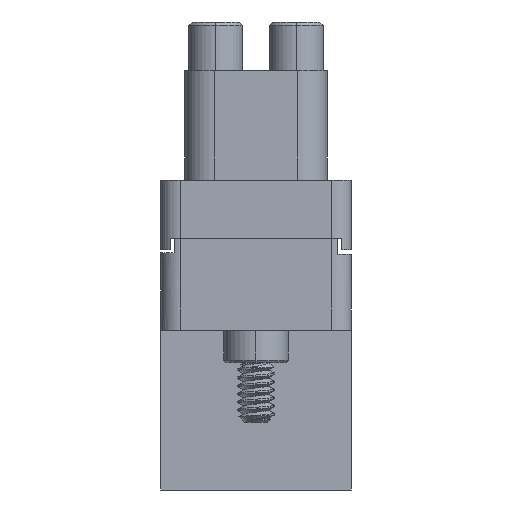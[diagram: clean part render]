
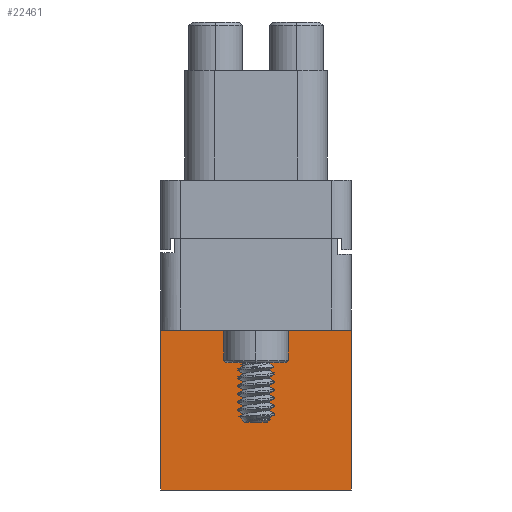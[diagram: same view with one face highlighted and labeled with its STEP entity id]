
A CAD part, left-side view. The second image highlights one B-rep face of the part: STEP entity #22461.
In plain terms, the highlighted planar face has unit normal (-1, 0, 0).
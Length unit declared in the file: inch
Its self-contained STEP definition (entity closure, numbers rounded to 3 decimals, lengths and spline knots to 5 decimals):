
#1451 = CARTESIAN_POINT ( 'NONE',  ( 23.95704, 35.46818, 49.99739 ) ) ;
#2077 = DIRECTION ( 'NONE',  ( 0., 0., 1. ) ) ;
#2496 = LINE ( 'NONE', #10897, #16370 ) ;
#2775 = CARTESIAN_POINT ( 'NONE',  ( 23.95704, 35.46818, 50.49239 ) ) ;
#3944 = EDGE_CURVE ( 'NONE', #17903, #9642, #19495, .T. ) ;
#4616 = CARTESIAN_POINT ( 'NONE',  ( 23.95704, 35.46818, 50.49239 ) ) ;
#5022 = VECTOR ( 'NONE', #19200, 39.37008 ) ;
#5417 = LINE ( 'NONE', #1451, #20598 ) ;
#6082 = EDGE_CURVE ( 'NONE', #24012, #9642, #2496, .T. ) ;
#7462 = EDGE_LOOP ( 'NONE', ( #19531, #17457, #22866, #19229 ) ) ;
#8631 = DIRECTION ( 'NONE',  ( 0., -1., 0. ) ) ;
#9503 = CARTESIAN_POINT ( 'NONE',  ( 23.95704, 35.46818, 49.99739 ) ) ;
#9642 = VERTEX_POINT ( 'NONE', #24307 ) ;
#9705 = EDGE_CURVE ( 'NONE', #23126, #24012, #13277, .T. ) ;
#10897 = CARTESIAN_POINT ( 'NONE',  ( 23.95704, 34.87818, 49.99739 ) ) ;
#11046 = EDGE_CURVE ( 'NONE', #23126, #17903, #5417, .T. ) ;
#11672 = DIRECTION ( 'NONE',  ( 0., 1., 0. ) ) ;
#13277 = LINE ( 'NONE', #15078, #5022 ) ;
#13595 = DIRECTION ( 'NONE',  ( 1., 0., 0. ) ) ;
#13837 = DIRECTION ( 'NONE',  ( 0., 0., 1. ) ) ;
#14098 = AXIS2_PLACEMENT_3D ( 'NONE', #24035, #13595, #11672 ) ;
#15078 = CARTESIAN_POINT ( 'NONE',  ( 23.95704, 35.46818, 49.99739 ) ) ;
#16370 = VECTOR ( 'NONE', #2077, 39.37008 ) ;
#17457 = ORIENTED_EDGE ( 'NONE', *, *, #3944, .F. ) ;
#17903 = VERTEX_POINT ( 'NONE', #2775 ) ;
#19200 = DIRECTION ( 'NONE',  ( 0., -1., 0. ) ) ;
#19229 = ORIENTED_EDGE ( 'NONE', *, *, #9705, .T. ) ;
#19495 = LINE ( 'NONE', #4616, #23851 ) ;
#19531 = ORIENTED_EDGE ( 'NONE', *, *, #6082, .T. ) ;
#19881 = CARTESIAN_POINT ( 'NONE',  ( 23.95704, 34.87818, 49.99739 ) ) ;
#20598 = VECTOR ( 'NONE', #13837, 39.37008 ) ;
#22461 = ADVANCED_FACE ( 'NONE', ( #25423 ), #23360, .F. ) ;
#22866 = ORIENTED_EDGE ( 'NONE', *, *, #11046, .F. ) ;
#23126 = VERTEX_POINT ( 'NONE', #9503 ) ;
#23360 = PLANE ( 'NONE',  #14098 ) ;
#23851 = VECTOR ( 'NONE', #8631, 39.37008 ) ;
#24012 = VERTEX_POINT ( 'NONE', #19881 ) ;
#24035 = CARTESIAN_POINT ( 'NONE',  ( 23.95704, 35.46818, 49.99739 ) ) ;
#24307 = CARTESIAN_POINT ( 'NONE',  ( 23.95704, 34.87818, 50.49239 ) ) ;
#25423 = FACE_OUTER_BOUND ( 'NONE', #7462, .T. ) ;
